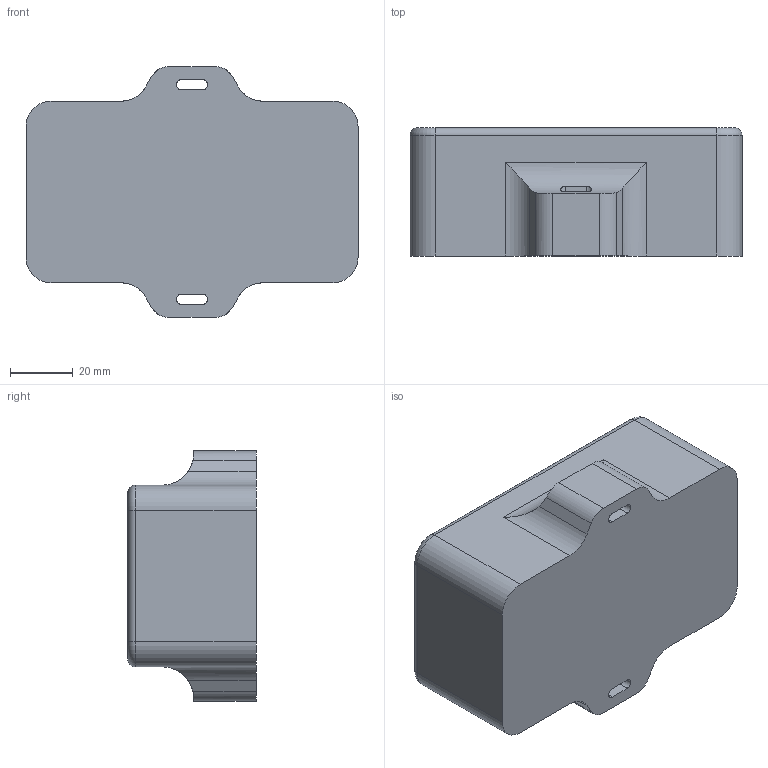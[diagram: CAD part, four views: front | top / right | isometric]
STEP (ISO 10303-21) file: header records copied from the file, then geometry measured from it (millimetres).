
FILE_DESCRIPTION (( 'STEP AP214' ), '1' );
FILE_NAME ('LH01-XX.STEP', '2025-06-03T21:47:09', ( '' ), ( '' ), 'SwSTEP 2.0', 'SolidWorks 2013', '' );
FILE_SCHEMA (( 'AUTOMOTIVE_DESIGN' ));
Length unit declared in the file: inch
Products named in the file (1): LH01-XX
Bounding box: 106 x 41 x 80 mm (x, y, z)
Volume: 261584.4 mm3; surface area: 27097.8 mm2
Topology: 1 solids, 1 shells, 82 faces, 214 edges, 132 vertices
Faces by surface type: cylinder 41, plane 25, torus 10, sphere 6
Entity records: 2706 total; most frequent: CARTESIAN_POINT 635, DIRECTION 446, ORIENTED_EDGE 416, EDGE_CURVE 208, AXIS2_PLACEMENT_3D 171, VERTEX_POINT 132, VECTOR 104, LINE 104
